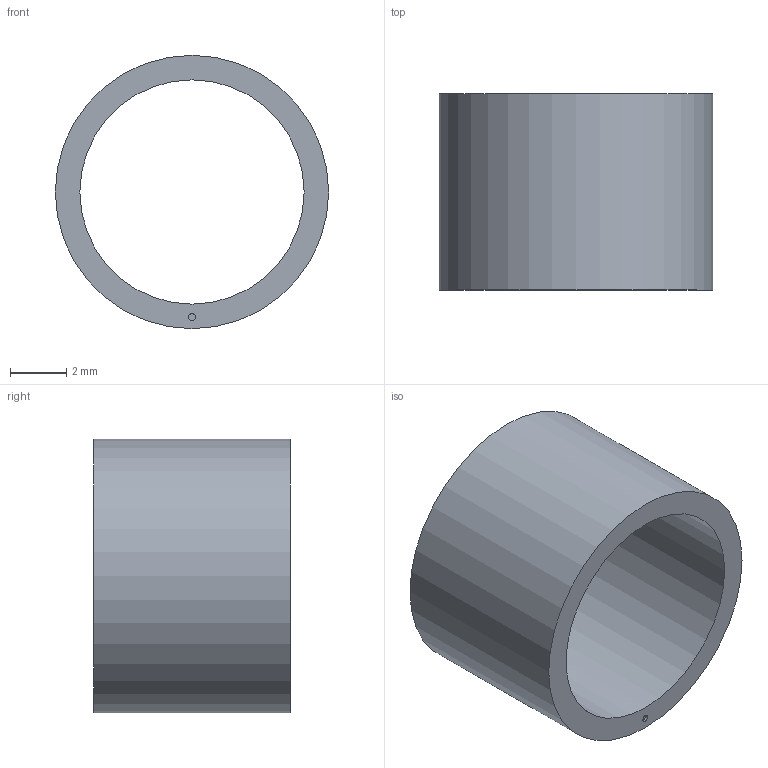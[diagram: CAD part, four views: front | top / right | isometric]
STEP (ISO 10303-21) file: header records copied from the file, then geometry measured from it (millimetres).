
FILE_DESCRIPTION(/* description */ ('STEP AP242 Edition 2','CAx-IF Rec.Pracs.---Representation and Presentation of Product Manufacturing Information (PMI)---4.0---2014-10-13','CAx-IF Rec.Pracs.---3D Tessellated Geometry---0.4---2014-09-14','2;1','CAx-IF Rec.Pracs.---User Defined Attributes---1.5---2016-08-15'),/* implementation_level */ '2;1');
FILE_NAME(/* name */ 'Assembly V2 - Inner (3)',/* time_stamp */ '2026-02-05T22:44:39Z',/* author */ (''),/* organization */ (''),/* preprocessor_version */ 'ST-DEVELOPER v20',/* originating_system */ 'ONSHAPE BY PTC INC, 1.210',/* authorisation */ ' ');
FILE_SCHEMA (('AP242_MANAGED_MODEL_BASED_3D_ENGINEERING_MIM_LF { 1 0 10303 442 3 1 4 }'));
Length unit declared in the file: metre
Products named in the file (1): Inner
Bounding box: 9.75 x 7 x 9.75 mm (x, y, z)
Volume: 170.8 mm3; surface area: 439.3 mm2
Topology: 1 solids, 1 shells, 8 faces, 12 edges, 8 vertices
Faces by surface type: plane 4, cylinder 4
Full cylindrical faces by diameter (mm): 0.25 x2, 8 x1, 9.75 x1
Entity records: 190 total; most frequent: DIRECTION 34, CARTESIAN_POINT 25, AXIS2_PLACEMENT_3D 17, ORIENTED_EDGE 16, EDGE_LOOP 16, FACE_BOUND 16, EDGE_CURVE 8, VERTEX_POINT 8
